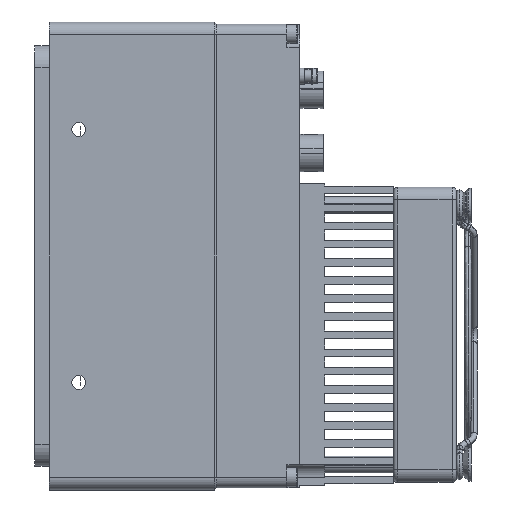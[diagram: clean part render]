
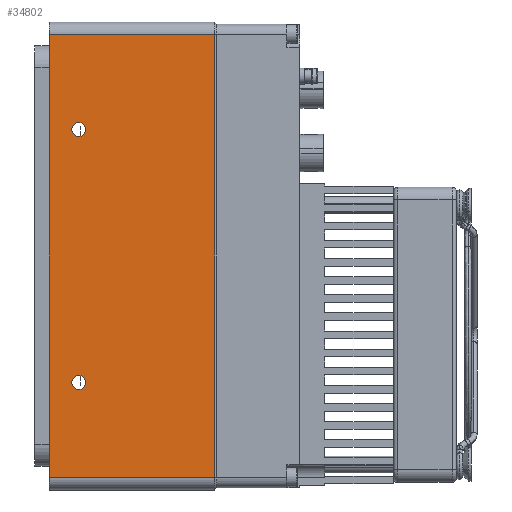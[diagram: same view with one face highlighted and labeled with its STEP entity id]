
A CAD part, left-side view. The second image highlights one B-rep face of the part: STEP entity #34802.
In plain terms, the highlighted planar face has unit normal (-1, 0, 0).
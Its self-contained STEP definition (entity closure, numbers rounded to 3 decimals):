
#89 = CARTESIAN_POINT ( 'NONE',  ( -55.5, 32.82, 55. ) ) ;
#648 = CARTESIAN_POINT ( 'NONE',  ( -55.5, 28.87, 30. ) ) ;
#1071 = DIRECTION ( 'NONE',  ( 0., 0., 1. ) ) ;
#1534 = CARTESIAN_POINT ( 'NONE',  ( -55.5, -3.35, -52.5 ) ) ;
#1685 = EDGE_LOOP ( 'NONE', ( #35235, #13118 ) ) ;
#2413 = DIRECTION ( 'NONE',  ( 0., 1., 0. ) ) ;
#2958 = EDGE_CURVE ( 'NONE', #28235, #7568, #4941, .T. ) ;
#3044 = DIRECTION ( 'NONE',  ( 0., 0., 1. ) ) ;
#4738 = EDGE_CURVE ( 'NONE', #35585, #28235, #22169, .T. ) ;
#4941 = LINE ( 'NONE', #26818, #27575 ) ;
#5344 = ORIENTED_EDGE ( 'NONE', *, *, #4738, .T. ) ;
#5396 = EDGE_CURVE ( 'NONE', #22472, #16649, #38946, .T. ) ;
#5406 = CARTESIAN_POINT ( 'NONE',  ( -55.5, 28.87, 28.35 ) ) ;
#7435 = FACE_OUTER_BOUND ( 'NONE', #25679, .T. ) ;
#7568 = VERTEX_POINT ( 'NONE', #23449 ) ;
#8868 = DIRECTION ( 'NONE',  ( 0., 0., 1. ) ) ;
#9018 = ORIENTED_EDGE ( 'NONE', *, *, #17228, .T. ) ;
#9178 = LINE ( 'NONE', #16550, #11116 ) ;
#10153 = AXIS2_PLACEMENT_3D ( 'NONE', #648, #25337, #1071 ) ;
#11116 = VECTOR ( 'NONE', #20050, 1000. ) ;
#12477 = VERTEX_POINT ( 'NONE', #33228 ) ;
#12887 = VECTOR ( 'NONE', #27925, 1000. ) ;
#13035 = CARTESIAN_POINT ( 'NONE',  ( -55.5, 28.87, -31.65 ) ) ;
#13118 = ORIENTED_EDGE ( 'NONE', *, *, #5396, .F. ) ;
#13274 = ORIENTED_EDGE ( 'NONE', *, *, #28944, .F. ) ;
#14397 = CARTESIAN_POINT ( 'NONE',  ( -55.5, 28.87, -28.35 ) ) ;
#14756 = VERTEX_POINT ( 'NONE', #24335 ) ;
#15476 = EDGE_CURVE ( 'NONE', #12477, #35585, #9178, .T. ) ;
#16000 = CARTESIAN_POINT ( 'NONE',  ( -55.5, 28.87, -30. ) ) ;
#16170 = VERTEX_POINT ( 'NONE', #5406 ) ;
#16550 = CARTESIAN_POINT ( 'NONE',  ( -55.5, 32.82, -52.5 ) ) ;
#16649 = VERTEX_POINT ( 'NONE', #14397 ) ;
#17156 = FACE_BOUND ( 'NONE', #35864, .T. ) ;
#17228 = EDGE_CURVE ( 'NONE', #7568, #12477, #18244, .T. ) ;
#17694 = DIRECTION ( 'NONE',  ( 0., 0., 1. ) ) ;
#18230 = DIRECTION ( 'NONE',  ( -1., 0., 0. ) ) ;
#18244 = LINE ( 'NONE', #31000, #12887 ) ;
#18456 = DIRECTION ( 'NONE',  ( -1., 0., 0. ) ) ;
#19028 = PLANE ( 'NONE',  #32453 ) ;
#19713 = EDGE_CURVE ( 'NONE', #16649, #22472, #21956, .T. ) ;
#19980 = ORIENTED_EDGE ( 'NONE', *, *, #15476, .T. ) ;
#20034 = EDGE_CURVE ( 'NONE', #16170, #14756, #39629, .T. ) ;
#20050 = DIRECTION ( 'NONE',  ( 0., -1., 0. ) ) ;
#21453 = FACE_BOUND ( 'NONE', #1685, .T. ) ;
#21732 = DIRECTION ( 'NONE',  ( 1., 0., 0. ) ) ;
#21956 = CIRCLE ( 'NONE', #26912, 1.65 ) ;
#22169 = LINE ( 'NONE', #24270, #39479 ) ;
#22472 = VERTEX_POINT ( 'NONE', #13035 ) ;
#22576 = CARTESIAN_POINT ( 'NONE',  ( -55.5, -3.35, 52.5 ) ) ;
#23449 = CARTESIAN_POINT ( 'NONE',  ( -55.5, 35.87, 52.5 ) ) ;
#23828 = AXIS2_PLACEMENT_3D ( 'NONE', #36639, #18230, #36108 ) ;
#24270 = CARTESIAN_POINT ( 'NONE',  ( -55.5, -3.35, 52. ) ) ;
#24335 = CARTESIAN_POINT ( 'NONE',  ( -55.5, 28.87, 31.65 ) ) ;
#24804 = DIRECTION ( 'NONE',  ( 0., 0., -1. ) ) ;
#25337 = DIRECTION ( 'NONE',  ( -1., 0., 0. ) ) ;
#25679 = EDGE_LOOP ( 'NONE', ( #32813, #9018, #19980, #5344 ) ) ;
#26798 = CARTESIAN_POINT ( 'NONE',  ( -55.5, 28.87, -30. ) ) ;
#26818 = CARTESIAN_POINT ( 'NONE',  ( -55.5, 32.82, 52.5 ) ) ;
#26912 = AXIS2_PLACEMENT_3D ( 'NONE', #26798, #36090, #17694 ) ;
#27575 = VECTOR ( 'NONE', #2413, 1000. ) ;
#27925 = DIRECTION ( 'NONE',  ( 0., 0., -1. ) ) ;
#28235 = VERTEX_POINT ( 'NONE', #22576 ) ;
#28944 = EDGE_CURVE ( 'NONE', #14756, #16170, #36908, .T. ) ;
#31000 = CARTESIAN_POINT ( 'NONE',  ( -55.5, 35.87, 55. ) ) ;
#31328 = ORIENTED_EDGE ( 'NONE', *, *, #20034, .F. ) ;
#32453 = AXIS2_PLACEMENT_3D ( 'NONE', #89, #21732, #24804 ) ;
#32813 = ORIENTED_EDGE ( 'NONE', *, *, #2958, .T. ) ;
#33228 = CARTESIAN_POINT ( 'NONE',  ( -55.5, 35.87, -52.5 ) ) ;
#33956 = AXIS2_PLACEMENT_3D ( 'NONE', #16000, #18456, #3044 ) ;
#34802 = ADVANCED_FACE ( 'NONE', ( #21453, #17156, #7435 ), #19028, .F. ) ;
#35235 = ORIENTED_EDGE ( 'NONE', *, *, #19713, .F. ) ;
#35585 = VERTEX_POINT ( 'NONE', #1534 ) ;
#35864 = EDGE_LOOP ( 'NONE', ( #13274, #31328 ) ) ;
#36090 = DIRECTION ( 'NONE',  ( -1., 0., 0. ) ) ;
#36108 = DIRECTION ( 'NONE',  ( 0., 0., 1. ) ) ;
#36639 = CARTESIAN_POINT ( 'NONE',  ( -55.5, 28.87, 30. ) ) ;
#36908 = CIRCLE ( 'NONE', #23828, 1.65 ) ;
#38946 = CIRCLE ( 'NONE', #33956, 1.65 ) ;
#39479 = VECTOR ( 'NONE', #8868, 1000. ) ;
#39629 = CIRCLE ( 'NONE', #10153, 1.65 ) ;
